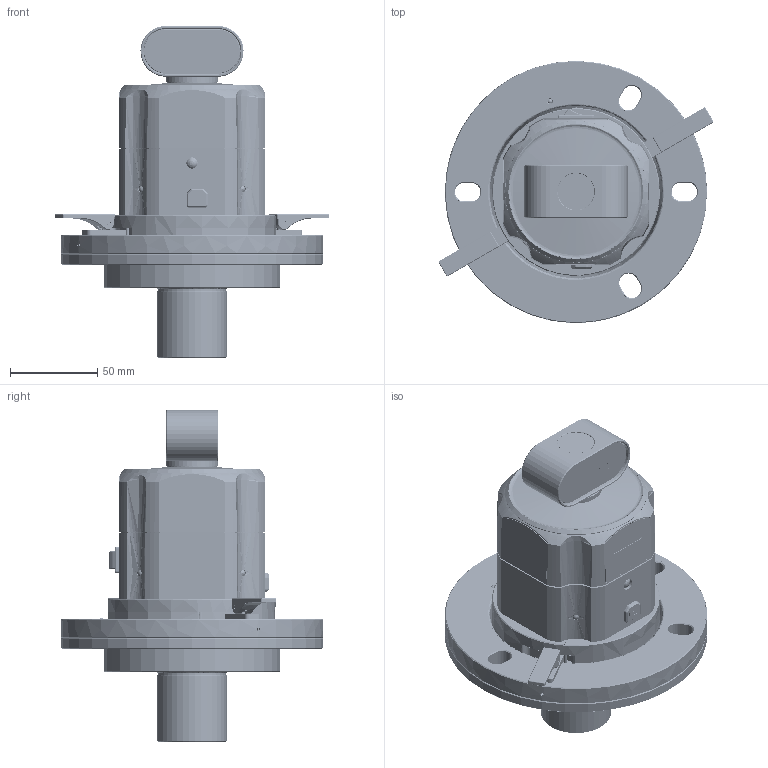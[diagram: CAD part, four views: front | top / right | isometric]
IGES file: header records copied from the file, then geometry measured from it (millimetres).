
Global section: file name: Y:\_LCPD Drawings\13.1 Lightweight Models\9920\LA-9920-0400  XR20-W\LA_9920_0400_A.igs; native system: NX V7.5; preprocessor: SIEMENS PLM Software NX 7.5; date: 20120511.084106; units: millimetre
Bounding box: 157.35 x 150 x 190 mm (x, y, z)
Surface area: 172339.5 mm2 (no closed solid volume)
Topology: 0 solids, 0 shells, 2554 faces, 16926 edges, 16558 vertices
Faces by surface type: bspline 1552, revolution 1002
